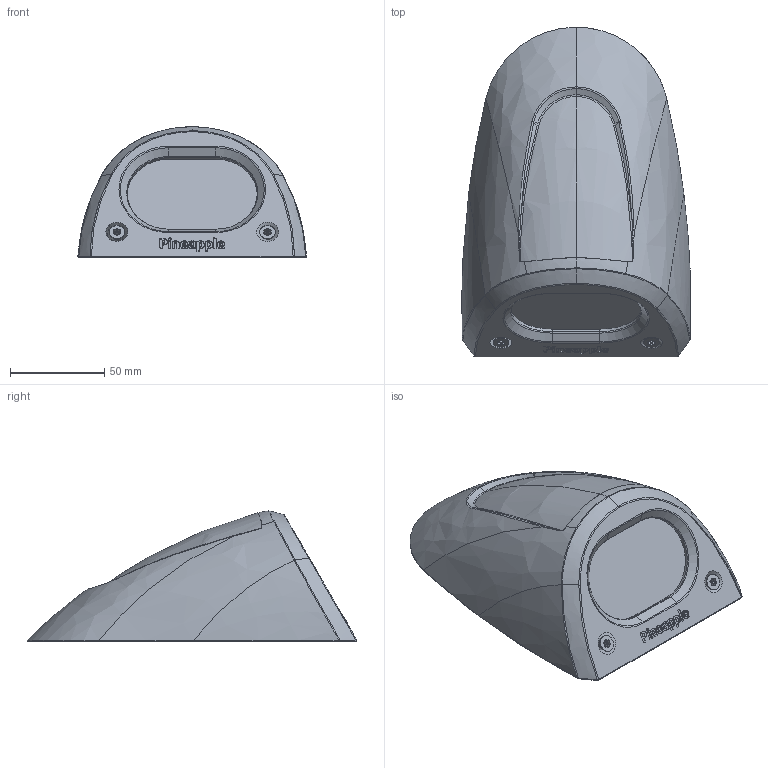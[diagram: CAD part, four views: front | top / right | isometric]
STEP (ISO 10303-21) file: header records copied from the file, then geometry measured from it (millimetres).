
FILE_DESCRIPTION(/* description */ ('STEP AP214'),/* implementation_level */ '2;1');
FILE_NAME(/* name */ 'Fynn 2.0 Task Light - STEP (Simplified).STEP',/* time_stamp */ '2026-08-19T18:26:02+03:00',/* author */ ('Brian.Thangei'),/* organization */ (''),/* preprocessor_version */ 'ST-DEVELOPER v20',/* originating_system */ 'Autodesk Inventor 2025',/* authorisation */ '');
FILE_SCHEMA (('AUTOMOTIVE_DESIGN { 1 0 10303 214 3 1 1 }'));
Length unit declared in the file: millimetre
Products named in the file (1): Fynn 2.0 Task Light - IPT (Simplified)
Bounding box: 121.3 x 175 x 69.27 mm (x, y, z)
Volume: 674191.1 mm3; surface area: 86620.3 mm2
Topology: 4 solids, 4 shells, 305 faces, 777 edges, 502 vertices
Faces by surface type: bspline 130, plane 81, cylinder 76, cone 14, torus 4
Full cylindrical faces by diameter (mm): 1.2 x2, 4 x2, 4.2 x2, 4.5 x4, 6.1 x2, 8.4 x2, 10.5 x1, 26 x1
Entity records: 23105 total; most frequent: CARTESIAN_POINT 16476, ORIENTED_EDGE 1554, DIRECTION 1030, EDGE_CURVE 777, VERTEX_POINT 502, AXIS2_PLACEMENT_3D 377, EDGE_LOOP 341, FACE_OUTER_BOUND 305
